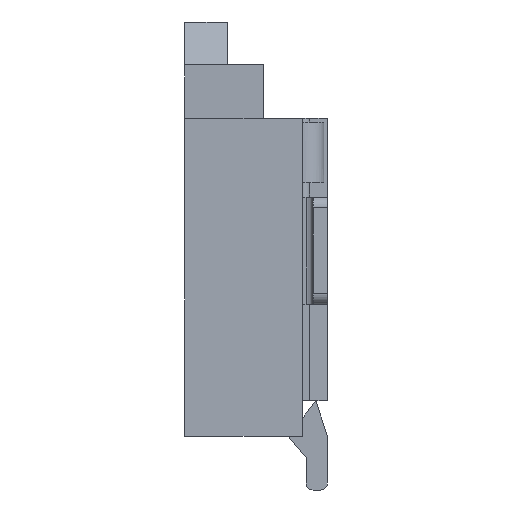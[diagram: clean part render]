
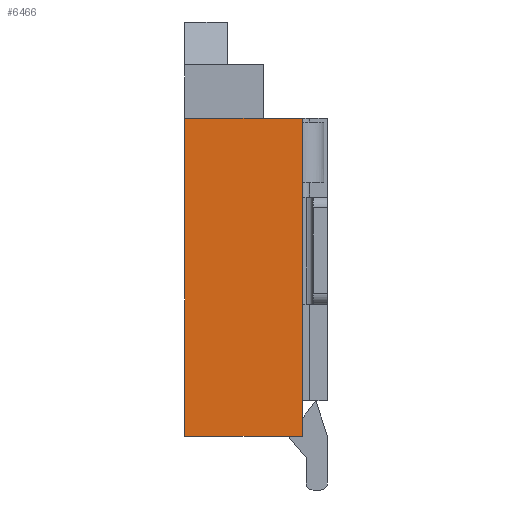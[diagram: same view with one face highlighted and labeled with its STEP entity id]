
A CAD part, left-side view. The second image highlights one B-rep face of the part: STEP entity #6466.
In plain terms, the highlighted planar face has unit normal (-1, 0, 0).
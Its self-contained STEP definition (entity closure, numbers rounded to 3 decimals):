
#376=DIRECTION('',(0.,0.,-1.));
#377=VECTOR('',#376,4.45);
#378=CARTESIAN_POINT('',(-6.7,-0.65,4.45));
#379=LINE('',#378,#377);
#864=DIRECTION('',(0.,0.,-1.));
#865=VECTOR('',#864,4.45);
#866=CARTESIAN_POINT('',(-6.7,1.,4.45));
#867=LINE('',#866,#865);
#868=DIRECTION('',(0.,-1.,0.));
#869=VECTOR('',#868,1.65);
#870=CARTESIAN_POINT('',(-6.7,1.,0.));
#871=LINE('',#870,#869);
#888=DIRECTION('',(0.,-1.,0.));
#889=VECTOR('',#888,1.65);
#890=CARTESIAN_POINT('',(-6.7,1.,4.45));
#891=LINE('',#890,#889);
#4692=CARTESIAN_POINT('',(-6.7,-0.65,0.));
#4693=VERTEX_POINT('',#4692);
#4694=CARTESIAN_POINT('',(-6.7,1.,0.));
#4695=VERTEX_POINT('',#4694);
#4709=CARTESIAN_POINT('',(-6.7,-0.65,4.45));
#4710=VERTEX_POINT('',#4709);
#5041=CARTESIAN_POINT('',(-6.7,1.,4.45));
#5043=VERTEX_POINT('',#5041);
#6454=CARTESIAN_POINT('',(-6.7,1.,4.45));
#6455=DIRECTION('',(-1.,0.,0.));
#6456=DIRECTION('',(0.,0.,-1.));
#6457=AXIS2_PLACEMENT_3D('',#6454,#6455,#6456);
#6458=PLANE('',#6457);
#6459=ORIENTED_EDGE('',*,*,#5384,.F.);
#6461=ORIENTED_EDGE('',*,*,#6460,.T.);
#6462=ORIENTED_EDGE('',*,*,#5770,.T.);
#6463=ORIENTED_EDGE('',*,*,#5296,.F.);
#6464=EDGE_LOOP('',(#6459,#6461,#6462,#6463));
#6465=FACE_OUTER_BOUND('',#6464,.F.);
#6466=ADVANCED_FACE('',(#6465),#6458,.T.);
#5296=EDGE_CURVE('',#4695,#4693,#871,.T.);
#5384=EDGE_CURVE('',#5043,#4695,#867,.T.);
#5770=EDGE_CURVE('',#4710,#4693,#379,.T.);
#6460=EDGE_CURVE('',#5043,#4710,#891,.T.);
